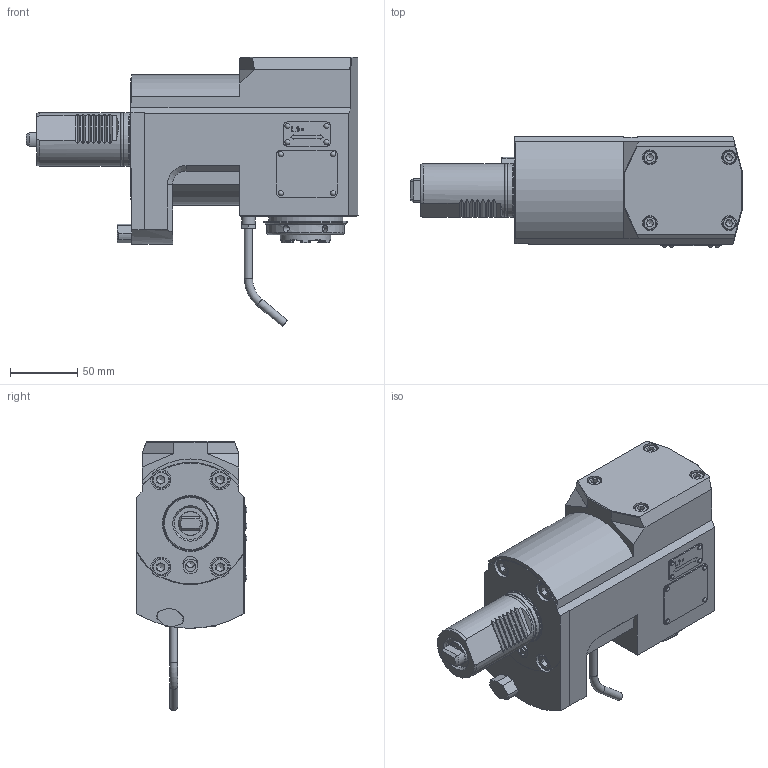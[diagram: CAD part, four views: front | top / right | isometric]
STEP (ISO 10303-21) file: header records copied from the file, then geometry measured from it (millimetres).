
FILE_DESCRIPTION(/* description */ (''),/* implementation_level */ '2;1');
FILE_NAME(/* name */ '124636',/* time_stamp */ '2020-02-27T08:54:09+01:00',/* author */ (''),/* organization */ (''),/* preprocessor_version */ 'ST-DEVELOPER v16.5',/* originating_system */ 'HiCAD 2017 2201.0 Build 268',/* authorisation */ '');
FILE_SCHEMA (('AUTOMOTIVE_DESIGN { 1 0 10303 214 1 1 1 1 }'));
Length unit declared in the file: millimetre
Products named in the file (5): Root; Teil; ABCDEFGHIJKLMNOPQRSTUVWXYZ[\]^_`ABCDEFGHIJKLMNOP龀⶜Ư; DIN 76-M8
Assembly tree (4 placements, depth 3):
  Root
    Teil
      ABCDEFGHIJKLMNOPQRSTUVWXYZ[\]^_`ABCDEFGHIJKLMNOP龀⶜Ư
      ABCDEFGHIJKLMNOPQRSTUVWXYZ[\]^_`ABCDEFGHIJKLMNOP龀⶜Ư
      DIN 76-M8
Bounding box: 247 x 82.3 x 200.17 mm (x, y, z)
Volume: 1468800.1 mm3; surface area: 126740.6 mm2
Topology: 9 solids, 18 shells, 678 faces, 1702 edges, 1105 vertices
Faces by surface type: plane 437, cylinder 162, cone 39, torus 30, sphere 8, bspline 2
Full cylindrical faces by diameter (mm): 2 x8, 2.2 x8, 4 x2, 5.1 x6, 6 x4, 6.8 x1, 7.5 x1, 7.65 x1, 8 x2, 8.773 x2, 9 x4, 10 x5, 11 x4, 11.01 x1, 11.1 x1, 13 x4, 15 x4, 18 x1, 23.5 x1, 24 x2, 27 x2, 29.4 x1, 36.5 x2, 37.5 x1, 38 x1, 38.16 x2, 38.4 x1, 39.6 x1, 40 x3, 40.501 x1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
Entity records: 44431 total; most frequent: CARTESIAN_POINT 11385, PRESENTATION_STYLE_ASSIGNMENT 3388, OVER_RIDING_STYLED_ITEM 3384, DIRECTION 3211, COLOUR_RGB 3018, DRAUGHTING_PRE_DEFINED_CURVE_FONT 3012, CURVE_STYLE 3012, ORIENTED_EDGE 3012
